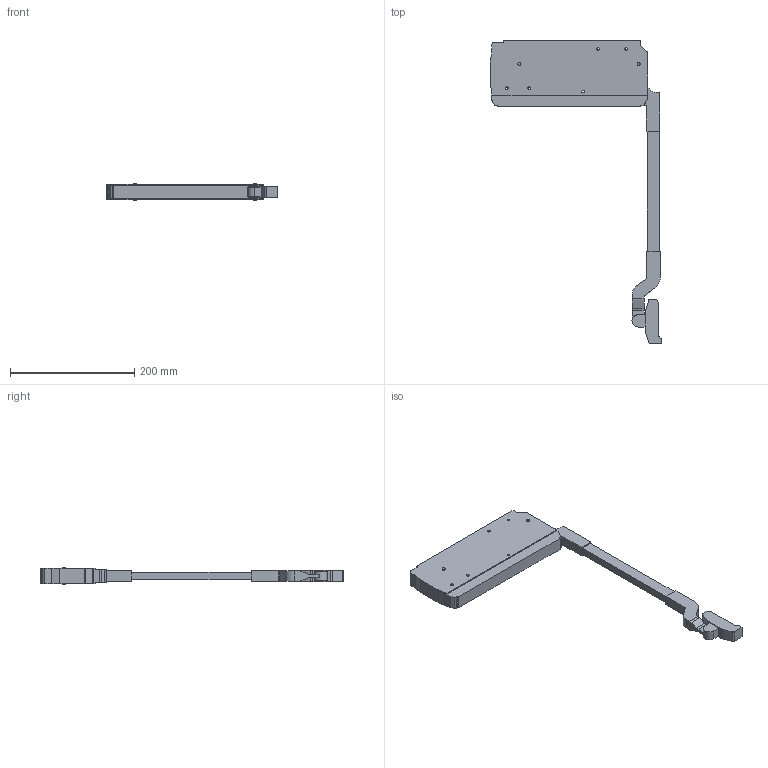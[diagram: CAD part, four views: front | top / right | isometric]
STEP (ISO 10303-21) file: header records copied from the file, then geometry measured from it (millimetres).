
FILE_DESCRIPTION (( 'STEP AP214' ), '1' );
FILE_NAME ('ST05AL(M,H).STEP', '2021-04-10T05:27:50', ( 'Windows 蚚誧' ), ( '' ), 'SwSTEP 2.0', 'SolidWorks 2018', '' );
FILE_SCHEMA (( 'AUTOMOTIVE_DESIGN' ));
Length unit declared in the file: millimetre
Products named in the file (1): ST05AL(M,H)
Bounding box: 275.2 x 487.78 x 28.6 mm (x, y, z)
Volume: 786849.7 mm3; surface area: 104732.1 mm2
Topology: 1 solids, 1 shells, 126 faces, 351 edges, 234 vertices
Faces by surface type: plane 68, cylinder 58
Entity records: 4578 total; most frequent: DIRECTION 723, CARTESIAN_POINT 712, ORIENTED_EDGE 702, EDGE_CURVE 351, AXIS2_PLACEMENT_3D 245, VERTEX_POINT 234, LINE 233, VECTOR 233
